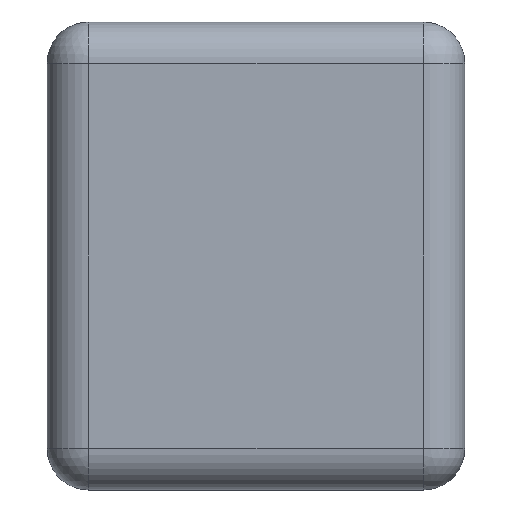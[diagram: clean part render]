
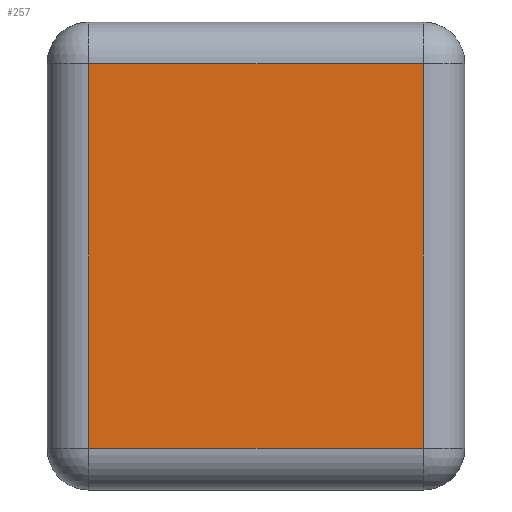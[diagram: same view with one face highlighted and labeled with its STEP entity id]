
A CAD part, left-side view. The second image highlights one B-rep face of the part: STEP entity #257.
In plain terms, the highlighted planar face has unit normal (-1, 0, 0).
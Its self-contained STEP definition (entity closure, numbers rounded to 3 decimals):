
#17 = CARTESIAN_POINT ( 'NONE',  ( -0.5, -0.2, 0.51 ) ) ;
#18 = VERTEX_POINT ( 'NONE', #17 ) ;
#26 = CARTESIAN_POINT ( 'NONE',  ( -0.5, -0.2, 0.05 ) ) ;
#27 = VERTEX_POINT ( 'NONE', #26 ) ;
#28 = CARTESIAN_POINT ( 'NONE',  ( -0.5, -0.2, 0.56 ) ) ;
#29 = DIRECTION ( 'NONE',  ( 0., 0., 1. ) ) ;
#30 = VECTOR ( 'NONE', #29, 1000. ) ;
#31 = LINE ( 'NONE', #28, #30 ) ;
#32 = EDGE_CURVE ( 'NONE', #27, #18, #31, .T. ) ;
#57 = CARTESIAN_POINT ( 'NONE',  ( -0.5, 0.2, 0.51 ) ) ;
#58 = VERTEX_POINT ( 'NONE', #57 ) ;
#76 = CARTESIAN_POINT ( 'NONE',  ( -0.5, 0.2, 0.05 ) ) ;
#77 = VERTEX_POINT ( 'NONE', #76 ) ;
#85 = CARTESIAN_POINT ( 'NONE',  ( -0.5, 0.2, 0. ) ) ;
#86 = DIRECTION ( 'NONE',  ( 0., 0., -1. ) ) ;
#87 = VECTOR ( 'NONE', #86, 1000. ) ;
#88 = LINE ( 'NONE', #85, #87 ) ;
#89 = EDGE_CURVE ( 'NONE', #58, #77, #88, .T. ) ;
#179 = CARTESIAN_POINT ( 'NONE',  ( -0.5, 0.25, 0.51 ) ) ;
#180 = DIRECTION ( 'NONE',  ( 0., 1., 0. ) ) ;
#181 = VECTOR ( 'NONE', #180, 1000. ) ;
#182 = LINE ( 'NONE', #179, #181 ) ;
#183 = EDGE_CURVE ( 'NONE', #18, #58, #182, .T. ) ;
#241 = ORIENTED_EDGE ( 'NONE', *, *, #183, .T. ) ;
#242 = ORIENTED_EDGE ( 'NONE', *, *, #89, .T. ) ;
#243 = CARTESIAN_POINT ( 'NONE',  ( -0.5, -0.25, 0.05 ) ) ;
#244 = DIRECTION ( 'NONE',  ( 0., -1., 0. ) ) ;
#245 = VECTOR ( 'NONE', #244, 1000. ) ;
#246 = LINE ( 'NONE', #243, #245 ) ;
#247 = EDGE_CURVE ( 'NONE', #77, #27, #246, .T. ) ;
#248 = ORIENTED_EDGE ( 'NONE', *, *, #247, .T. ) ;
#249 = ORIENTED_EDGE ( 'NONE', *, *, #32, .T. ) ;
#250 = EDGE_LOOP ( 'NONE', ( #241, #242, #248, #249 ) ) ;
#251 = FACE_OUTER_BOUND ( 'NONE', #250, .T. ) ;
#252 = CARTESIAN_POINT ( 'NONE',  ( -0.5, 0., 0. ) ) ;
#253 = DIRECTION ( 'NONE',  ( -1., 0., 0. ) ) ;
#254 = DIRECTION ( 'NONE',  ( 0., -1., 0. ) ) ;
#255 = AXIS2_PLACEMENT_3D ( 'NONE', #252, #253, #254 ) ;
#256 = PLANE ( 'NONE', #255 ) ;
#257 = ADVANCED_FACE ( 'NONE', ( #251 ), #256, .T. ) ;
